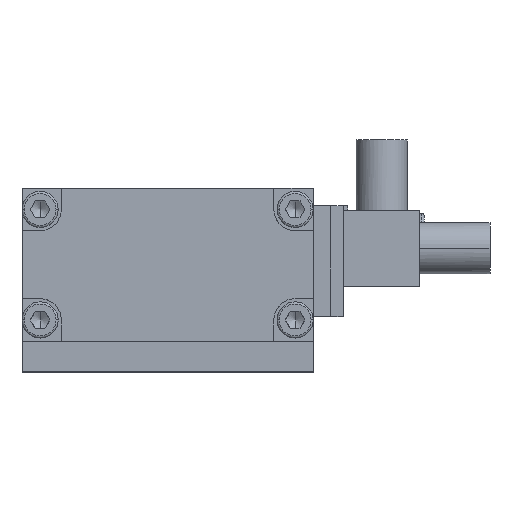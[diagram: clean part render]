
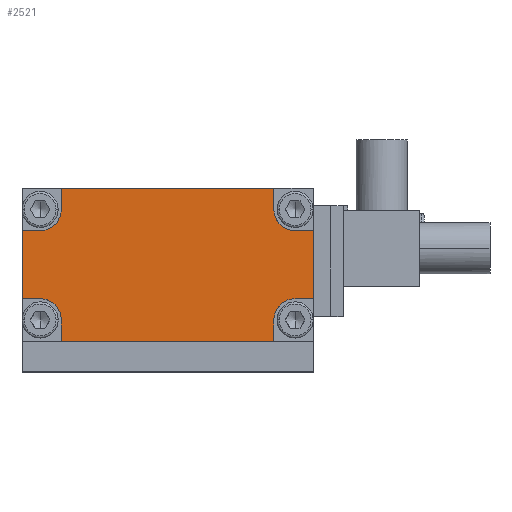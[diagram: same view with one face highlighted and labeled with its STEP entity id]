
A CAD part, top view. The second image highlights one B-rep face of the part: STEP entity #2521.
In plain terms, the highlighted planar face has unit normal (0, 0, 1).
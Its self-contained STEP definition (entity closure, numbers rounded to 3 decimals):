
#1664=CARTESIAN_POINT('Vertex',(-0.1,-26.,147.)) ;
#1667=CARTESIAN_POINT('Line Origine',(-0.1,-18.,147.)) ;
#1671=CARTESIAN_POINT('Vertex',(-0.1,-10.,147.)) ;
#2183=CARTESIAN_POINT('Vertex',(9.15,0.,147.)) ;
#2186=CARTESIAN_POINT('Line Origine',(34.15,0.,147.)) ;
#2190=CARTESIAN_POINT('Vertex',(59.15,0.,147.)) ;
#2232=CARTESIAN_POINT('Vertex',(9.15,-36.,147.)) ;
#2260=CARTESIAN_POINT('Vertex',(59.15,-36.,147.)) ;
#2263=CARTESIAN_POINT('Line Origine',(34.15,-36.,147.)) ;
#2405=CARTESIAN_POINT('Vertex',(4.15,-26.,147.)) ;
#2408=CARTESIAN_POINT('Line Origine',(2.025,-26.,147.)) ;
#2420=CARTESIAN_POINT('Axis2P3D Location',(34.15,-18.,147.)) ;
#2425=CARTESIAN_POINT('Line Origine',(9.15,-2.5,147.)) ;
#2429=CARTESIAN_POINT('Vertex',(9.15,-5.,147.)) ;
#2432=CARTESIAN_POINT('Axis2P3D Location',(4.15,-5.,147.)) ;
#2436=CARTESIAN_POINT('Vertex',(4.15,-10.,147.)) ;
#2439=CARTESIAN_POINT('Line Origine',(2.025,-10.,147.)) ;
#2444=CARTESIAN_POINT('Axis2P3D Location',(4.15,-31.,147.)) ;
#2448=CARTESIAN_POINT('Vertex',(9.15,-31.,147.)) ;
#2451=CARTESIAN_POINT('Line Origine',(9.15,-33.5,147.)) ;
#2456=CARTESIAN_POINT('Line Origine',(59.15,-33.5,147.)) ;
#2460=CARTESIAN_POINT('Vertex',(59.15,-31.,147.)) ;
#2463=CARTESIAN_POINT('Axis2P3D Location',(64.15,-31.,147.)) ;
#2467=CARTESIAN_POINT('Vertex',(64.15,-26.,147.)) ;
#2470=CARTESIAN_POINT('Line Origine',(66.275,-26.,147.)) ;
#2474=CARTESIAN_POINT('Vertex',(68.4,-26.,147.)) ;
#2477=CARTESIAN_POINT('Line Origine',(68.4,-18.,147.)) ;
#2481=CARTESIAN_POINT('Vertex',(68.4,-10.,147.)) ;
#2484=CARTESIAN_POINT('Line Origine',(66.275,-10.,147.)) ;
#2488=CARTESIAN_POINT('Vertex',(64.15,-10.,147.)) ;
#2491=CARTESIAN_POINT('Axis2P3D Location',(64.15,-5.,147.)) ;
#2495=CARTESIAN_POINT('Vertex',(59.15,-5.,147.)) ;
#2498=CARTESIAN_POINT('Line Origine',(59.15,-2.5,147.)) ;
#1668=DIRECTION('Vector Direction',(0.,-1.,0.)) ;
#2187=DIRECTION('Vector Direction',(-1.,0.,0.)) ;
#2264=DIRECTION('Vector Direction',(1.,0.,0.)) ;
#2409=DIRECTION('Vector Direction',(1.,0.,0.)) ;
#2421=DIRECTION('Axis2P3D Direction',(0.,0.,-1.)) ;
#2422=DIRECTION('Axis2P3D XDirection',(1.,0.,0.)) ;
#2426=DIRECTION('Vector Direction',(0.,-1.,0.)) ;
#2433=DIRECTION('Axis2P3D Direction',(0.,0.,-1.)) ;
#2440=DIRECTION('Vector Direction',(-1.,0.,0.)) ;
#2445=DIRECTION('Axis2P3D Direction',(0.,0.,-1.)) ;
#2452=DIRECTION('Vector Direction',(0.,-1.,0.)) ;
#2457=DIRECTION('Vector Direction',(0.,1.,0.)) ;
#2464=DIRECTION('Axis2P3D Direction',(0.,0.,-1.)) ;
#2471=DIRECTION('Vector Direction',(1.,0.,0.)) ;
#2478=DIRECTION('Vector Direction',(0.,1.,0.)) ;
#2485=DIRECTION('Vector Direction',(-1.,0.,0.)) ;
#2492=DIRECTION('Axis2P3D Direction',(0.,0.,-1.)) ;
#2499=DIRECTION('Vector Direction',(0.,1.,0.)) ;
#2423=AXIS2_PLACEMENT_3D('Plane Axis2P3D',#2420,#2421,#2422) ;
#2434=AXIS2_PLACEMENT_3D('Circle Axis2P3D',#2432,#2433,$) ;
#2446=AXIS2_PLACEMENT_3D('Circle Axis2P3D',#2444,#2445,$) ;
#2465=AXIS2_PLACEMENT_3D('Circle Axis2P3D',#2463,#2464,$) ;
#2493=AXIS2_PLACEMENT_3D('Circle Axis2P3D',#2491,#2492,$) ;
#2504=ORIENTED_EDGE('',*,*,#2431,.T.) ;
#2505=ORIENTED_EDGE('',*,*,#2438,.T.) ;
#2506=ORIENTED_EDGE('',*,*,#2443,.T.) ;
#2507=ORIENTED_EDGE('',*,*,#1673,.T.) ;
#2508=ORIENTED_EDGE('',*,*,#2412,.T.) ;
#2509=ORIENTED_EDGE('',*,*,#2450,.T.) ;
#2510=ORIENTED_EDGE('',*,*,#2455,.T.) ;
#2511=ORIENTED_EDGE('',*,*,#2267,.T.) ;
#2512=ORIENTED_EDGE('',*,*,#2462,.T.) ;
#2513=ORIENTED_EDGE('',*,*,#2469,.T.) ;
#2514=ORIENTED_EDGE('',*,*,#2476,.T.) ;
#2515=ORIENTED_EDGE('',*,*,#2483,.T.) ;
#2516=ORIENTED_EDGE('',*,*,#2490,.T.) ;
#2517=ORIENTED_EDGE('',*,*,#2497,.T.) ;
#2518=ORIENTED_EDGE('',*,*,#2502,.T.) ;
#2519=ORIENTED_EDGE('',*,*,#2192,.T.) ;
#1669=VECTOR('Line Direction',#1668,1.) ;
#2188=VECTOR('Line Direction',#2187,1.) ;
#2265=VECTOR('Line Direction',#2264,1.) ;
#2410=VECTOR('Line Direction',#2409,1.) ;
#2427=VECTOR('Line Direction',#2426,1.) ;
#2441=VECTOR('Line Direction',#2440,1.) ;
#2453=VECTOR('Line Direction',#2452,1.) ;
#2458=VECTOR('Line Direction',#2457,1.) ;
#2472=VECTOR('Line Direction',#2471,1.) ;
#2479=VECTOR('Line Direction',#2478,1.) ;
#2486=VECTOR('Line Direction',#2485,1.) ;
#2500=VECTOR('Line Direction',#2499,1.) ;
#2521=ADVANCED_FACE('253587 Deckel SZKD 40 (18395020)_1\\Volumenk\X2\00F6\X0\rper1',(#2520),#2424,.F.) ;
#2435=CIRCLE('generated circle',#2434,5.) ;
#2447=CIRCLE('generated circle',#2446,5.) ;
#2466=CIRCLE('generated circle',#2465,5.) ;
#2494=CIRCLE('generated circle',#2493,5.) ;
#1673=EDGE_CURVE('',#1672,#1665,#1670,.T.) ;
#2192=EDGE_CURVE('',#2191,#2184,#2189,.T.) ;
#2267=EDGE_CURVE('',#2233,#2261,#2266,.T.) ;
#2412=EDGE_CURVE('',#1665,#2406,#2411,.T.) ;
#2431=EDGE_CURVE('',#2184,#2430,#2428,.T.) ;
#2438=EDGE_CURVE('',#2430,#2437,#2435,.T.) ;
#2443=EDGE_CURVE('',#2437,#1672,#2442,.T.) ;
#2450=EDGE_CURVE('',#2406,#2449,#2447,.T.) ;
#2455=EDGE_CURVE('',#2449,#2233,#2454,.T.) ;
#2462=EDGE_CURVE('',#2261,#2461,#2459,.T.) ;
#2469=EDGE_CURVE('',#2461,#2468,#2466,.T.) ;
#2476=EDGE_CURVE('',#2468,#2475,#2473,.T.) ;
#2483=EDGE_CURVE('',#2475,#2482,#2480,.T.) ;
#2490=EDGE_CURVE('',#2482,#2489,#2487,.T.) ;
#2497=EDGE_CURVE('',#2489,#2496,#2494,.T.) ;
#2502=EDGE_CURVE('',#2496,#2191,#2501,.T.) ;
#2503=EDGE_LOOP('',(#2504,#2505,#2506,#2507,#2508,#2509,#2510,#2511,#2512,#2513,#2514,#2515,#2516,#2517,#2518,#2519)) ;
#2520=FACE_OUTER_BOUND('',#2503,.T.) ;
#1670=LINE('Line',#1667,#1669) ;
#2189=LINE('Line',#2186,#2188) ;
#2266=LINE('Line',#2263,#2265) ;
#2411=LINE('Line',#2408,#2410) ;
#2428=LINE('Line',#2425,#2427) ;
#2442=LINE('Line',#2439,#2441) ;
#2454=LINE('Line',#2451,#2453) ;
#2459=LINE('Line',#2456,#2458) ;
#2473=LINE('Line',#2470,#2472) ;
#2480=LINE('Line',#2477,#2479) ;
#2487=LINE('Line',#2484,#2486) ;
#2501=LINE('Line',#2498,#2500) ;
#2424=PLANE('Plane',#2423) ;
#1665=VERTEX_POINT('',#1664) ;
#1672=VERTEX_POINT('',#1671) ;
#2184=VERTEX_POINT('',#2183) ;
#2191=VERTEX_POINT('',#2190) ;
#2233=VERTEX_POINT('',#2232) ;
#2261=VERTEX_POINT('',#2260) ;
#2406=VERTEX_POINT('',#2405) ;
#2430=VERTEX_POINT('',#2429) ;
#2437=VERTEX_POINT('',#2436) ;
#2449=VERTEX_POINT('',#2448) ;
#2461=VERTEX_POINT('',#2460) ;
#2468=VERTEX_POINT('',#2467) ;
#2475=VERTEX_POINT('',#2474) ;
#2482=VERTEX_POINT('',#2481) ;
#2489=VERTEX_POINT('',#2488) ;
#2496=VERTEX_POINT('',#2495) ;
